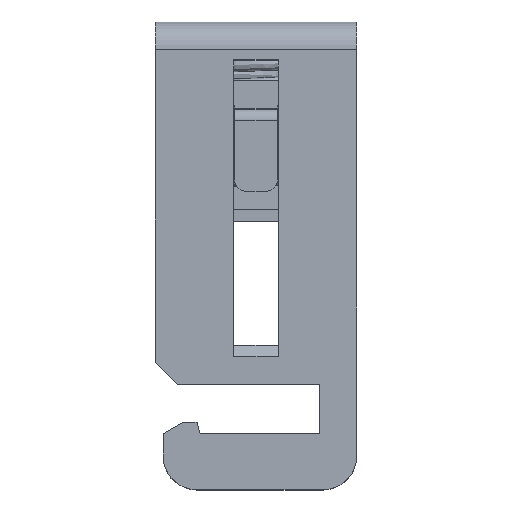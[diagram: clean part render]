
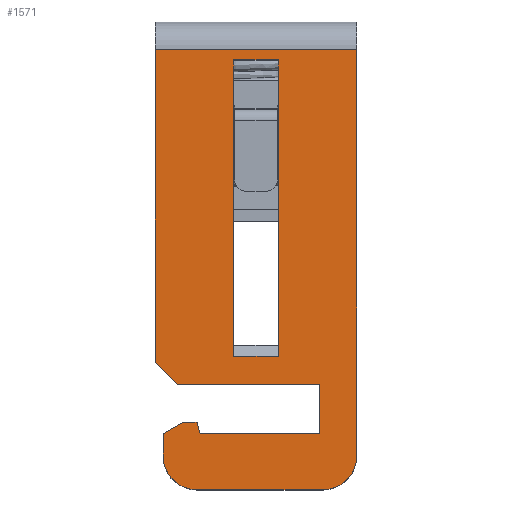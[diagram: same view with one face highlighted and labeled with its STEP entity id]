
A CAD part, top view. The second image highlights one B-rep face of the part: STEP entity #1571.
In plain terms, the highlighted planar face has unit normal (0, 0, 1).
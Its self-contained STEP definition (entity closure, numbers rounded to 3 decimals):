
#1571=ADVANCED_FACE('',(#4484,#4486),#4488,.F.);
#4484=FACE_BOUND('',#4485,.T.);
#4485=EDGE_LOOP('',(#10834,#10835,#10836,#10837,#10838,#10839,#10840,#10841,#10842,
#10843,#10844,#10845,#10846,#10847));
#4486=FACE_BOUND('',#4487,.T.);
#4487=EDGE_LOOP('',(#10848,#10849,#10850,#10851));
#4488=PLANE('',#4489);
#4489=AXIS2_PLACEMENT_3D('',#4490,#4491,#4492);
#4490=CARTESIAN_POINT('',(0.,99.695,20.));
#4491=DIRECTION('',(0.,0.,-1.));
#4492=DIRECTION('',(1.,0.,0.));
#10834=ORIENTED_EDGE('',*,*,#12256,.F.);
#10835=ORIENTED_EDGE('',*,*,#12257,.F.);
#10836=ORIENTED_EDGE('',*,*,#12258,.F.);
#10837=ORIENTED_EDGE('',*,*,#12259,.F.);
#10838=ORIENTED_EDGE('',*,*,#12242,.T.);
#10839=ORIENTED_EDGE('',*,*,#12260,.F.);
#10840=ORIENTED_EDGE('',*,*,#12261,.T.);
#10841=ORIENTED_EDGE('',*,*,#12262,.T.);
#10842=ORIENTED_EDGE('',*,*,#12263,.T.);
#10843=ORIENTED_EDGE('',*,*,#12264,.T.);
#10844=ORIENTED_EDGE('',*,*,#12265,.T.);
#10845=ORIENTED_EDGE('',*,*,#12266,.T.);
#10846=ORIENTED_EDGE('',*,*,#12267,.T.);
#10847=ORIENTED_EDGE('',*,*,#12268,.T.);
#10848=ORIENTED_EDGE('',*,*,#12269,.T.);
#10849=ORIENTED_EDGE('',*,*,#12270,.T.);
#10850=ORIENTED_EDGE('',*,*,#12271,.T.);
#10851=ORIENTED_EDGE('',*,*,#12272,.T.);
#12242=EDGE_CURVE('',#13508,#13509,#13510,.T.);
#12256=EDGE_CURVE('',#13532,#13533,#13534,.F.);
#12257=EDGE_CURVE('',#13535,#13532,#13536,.T.);
#12258=EDGE_CURVE('',#13537,#13535,#13538,.F.);
#12259=EDGE_CURVE('',#13508,#13537,#13539,.T.);
#12260=EDGE_CURVE('',#13540,#13509,#13541,.T.);
#12261=EDGE_CURVE('',#13540,#13542,#13543,.T.);
#12262=EDGE_CURVE('',#13542,#13544,#13545,.T.);
#12263=EDGE_CURVE('',#13544,#13546,#13547,.T.);
#12264=EDGE_CURVE('',#13546,#13548,#13549,.T.);
#12265=EDGE_CURVE('',#13548,#13550,#13551,.T.);
#12266=EDGE_CURVE('',#13550,#13552,#13553,.T.);
#12267=EDGE_CURVE('',#13552,#13554,#13555,.T.);
#12268=EDGE_CURVE('',#13554,#13533,#13556,.T.);
#12269=EDGE_CURVE('',#13557,#13558,#13559,.T.);
#12270=EDGE_CURVE('',#13558,#13560,#13561,.T.);
#12271=EDGE_CURVE('',#13560,#13562,#13563,.T.);
#12272=EDGE_CURVE('',#13562,#13557,#13564,.T.);
#13508=VERTEX_POINT('',#16100);
#13509=VERTEX_POINT('',#16101);
#13510=LINE('',#16102,#16103);
#13532=VERTEX_POINT('',#16158);
#13533=VERTEX_POINT('',#16159);
#13534=CIRCLE('',#16160,3.);
#13535=VERTEX_POINT('',#16164);
#13536=LINE('',#16165,#16166);
#13537=VERTEX_POINT('',#16168);
#13538=CIRCLE('',#16169,3.);
#13539=LINE('',#16173,#16174);
#13540=VERTEX_POINT('',#16176);
#13541=LINE('',#16177,#16178);
#13542=VERTEX_POINT('',#16180);
#13543=LINE('',#16181,#16182);
#13544=VERTEX_POINT('',#16184);
#13545=LINE('',#16185,#16186);
#13546=VERTEX_POINT('',#16188);
#13547=LINE('',#16189,#16190);
#13548=VERTEX_POINT('',#16192);
#13549=LINE('',#16193,#16194);
#13550=VERTEX_POINT('',#16196);
#13551=LINE('',#16197,#16198);
#13552=VERTEX_POINT('',#16200);
#13553=LINE('',#16201,#16202);
#13554=VERTEX_POINT('',#16204);
#13555=LINE('',#16205,#16206);
#13556=LINE('',#16208,#16209);
#13557=VERTEX_POINT('',#16211);
#13558=VERTEX_POINT('',#16212);
#13559=LINE('',#16213,#16214);
#13560=VERTEX_POINT('',#16216);
#13561=LINE('',#16217,#16218);
#13562=VERTEX_POINT('',#16220);
#13563=LINE('',#16221,#16222);
#13564=LINE('',#16224,#16225);
#16100=CARTESIAN_POINT('',(18.,39.3,20.));
#16101=CARTESIAN_POINT('',(0.,39.3,20.));
#16102=CARTESIAN_POINT('',(18.,39.3,20.));
#16103=VECTOR('',#16104,1.);
#16104=DIRECTION('',(-1.,0.,0.));
#16158=CARTESIAN_POINT('',(3.7,0.,20.));
#16159=CARTESIAN_POINT('',(0.7,3.,20.));
#16160=AXIS2_PLACEMENT_3D('',#16161,#16162,#16163);
#16161=CARTESIAN_POINT('',(3.7,3.,20.));
#16162=DIRECTION('',(0.,0.,1.));
#16163=DIRECTION('',(-1.,0.,0.));
#16164=CARTESIAN_POINT('',(15.,0.,20.));
#16165=CARTESIAN_POINT('',(15.,0.,20.));
#16166=VECTOR('',#16167,1.);
#16167=DIRECTION('',(-1.,0.,0.));
#16168=CARTESIAN_POINT('',(18.,3.,20.));
#16169=AXIS2_PLACEMENT_3D('',#16170,#16171,#16172);
#16170=CARTESIAN_POINT('',(15.,3.,20.));
#16171=DIRECTION('',(0.,0.,1.));
#16172=DIRECTION('',(0.,-1.,0.));
#16173=CARTESIAN_POINT('',(18.,39.3,20.));
#16174=VECTOR('',#16175,1.);
#16175=DIRECTION('',(0.,-1.,0.));
#16176=CARTESIAN_POINT('',(0.,11.4,20.));
#16177=CARTESIAN_POINT('',(0.,11.4,20.));
#16178=VECTOR('',#16179,1.);
#16179=DIRECTION('',(0.,1.,0.));
#16180=CARTESIAN_POINT('',(2.,9.4,20.));
#16181=CARTESIAN_POINT('',(0.,11.4,20.));
#16182=VECTOR('',#16183,1.);
#16183=DIRECTION('',(0.707,-0.707,0.));
#16184=CARTESIAN_POINT('',(14.7,9.4,20.));
#16185=CARTESIAN_POINT('',(2.,9.4,20.));
#16186=VECTOR('',#16187,1.);
#16187=DIRECTION('',(1.,0.,0.));
#16188=CARTESIAN_POINT('',(14.7,5.,20.));
#16189=CARTESIAN_POINT('',(14.7,9.4,20.));
#16190=VECTOR('',#16191,1.);
#16191=DIRECTION('',(0.,-1.,0.));
#16192=CARTESIAN_POINT('',(4.,5.,20.));
#16193=CARTESIAN_POINT('',(14.7,5.,20.));
#16194=VECTOR('',#16195,1.);
#16195=DIRECTION('',(-1.,0.,0.));
#16196=CARTESIAN_POINT('',(3.732,6.,20.));
#16197=CARTESIAN_POINT('',(4.,5.,20.));
#16198=VECTOR('',#16199,1.);
#16199=DIRECTION('',(-0.259,0.966,0.));
#16200=CARTESIAN_POINT('',(2.432,6.,20.));
#16201=CARTESIAN_POINT('',(3.732,6.,20.));
#16202=VECTOR('',#16203,1.);
#16203=DIRECTION('',(-1.,0.,0.));
#16204=CARTESIAN_POINT('',(0.7,5.,20.));
#16205=CARTESIAN_POINT('',(2.432,6.,20.));
#16206=VECTOR('',#16207,1.);
#16207=DIRECTION('',(-0.866,-0.5,0.));
#16208=CARTESIAN_POINT('',(0.7,5.,20.));
#16209=VECTOR('',#16210,1.);
#16210=DIRECTION('',(0.,-1.,0.));
#16211=CARTESIAN_POINT('',(11.,11.9,20.));
#16212=CARTESIAN_POINT('',(7.,11.9,20.));
#16213=CARTESIAN_POINT('',(11.,11.9,20.));
#16214=VECTOR('',#16215,1.);
#16215=DIRECTION('',(-1.,0.,0.));
#16216=CARTESIAN_POINT('',(7.,38.4,20.));
#16217=CARTESIAN_POINT('',(7.,11.9,20.));
#16218=VECTOR('',#16219,1.);
#16219=DIRECTION('',(0.,1.,0.));
#16220=CARTESIAN_POINT('',(11.,38.4,20.));
#16221=CARTESIAN_POINT('',(7.,38.4,20.));
#16222=VECTOR('',#16223,1.);
#16223=DIRECTION('',(1.,0.,0.));
#16224=CARTESIAN_POINT('',(11.,38.4,20.));
#16225=VECTOR('',#16226,1.);
#16226=DIRECTION('',(0.,-1.,0.));
